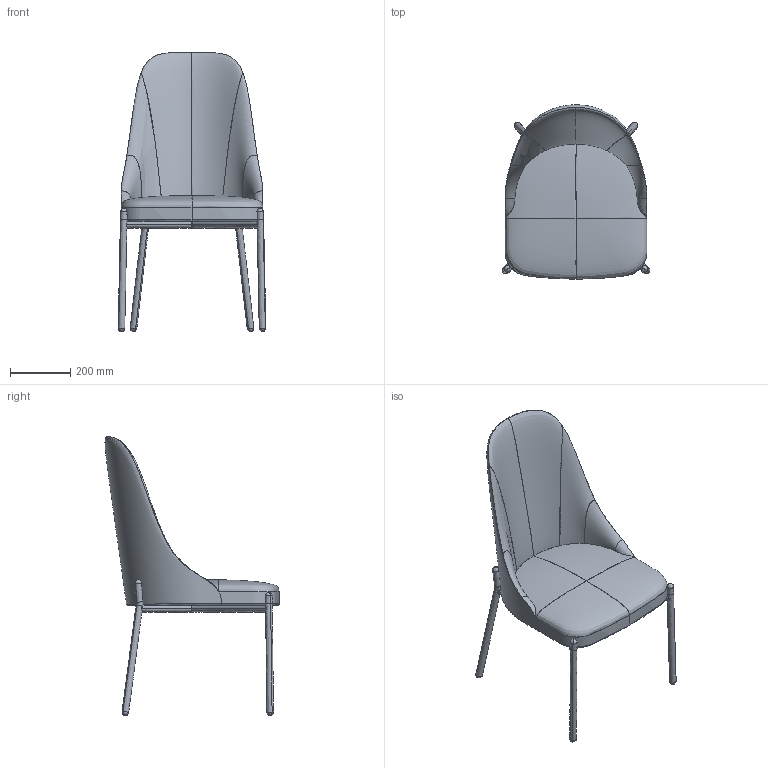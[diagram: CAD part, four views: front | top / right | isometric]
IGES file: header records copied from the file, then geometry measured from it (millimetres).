
Global section: file name: C:\Users\kinoshita\Desktop\kinoshita_abord_s008.igs; native system: Rhinoceros ( Aug 11 2021 ); preprocessor: Trout Lake IGES 012 Aug 11 2021; date: 240724.082144; units: millimetre
Bounding box: 489.97 x 577.18 x 925.1 mm (x, y, z)
Surface area: 1192160.9 mm2 (no closed solid volume)
Topology: 0 solids, 0 shells, 87 faces, 1704 edges, 1688 vertices
Faces by surface type: bspline 66, plane 21
